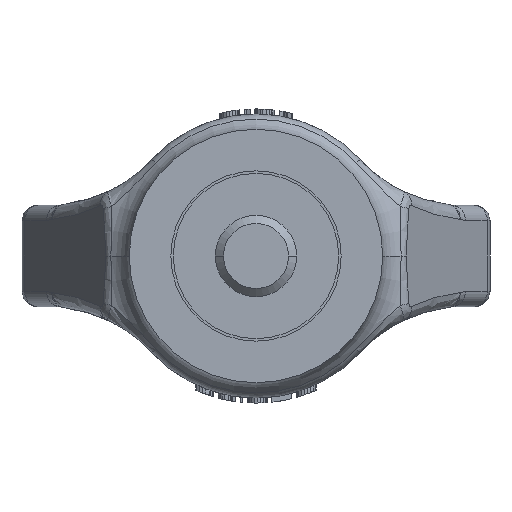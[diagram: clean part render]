
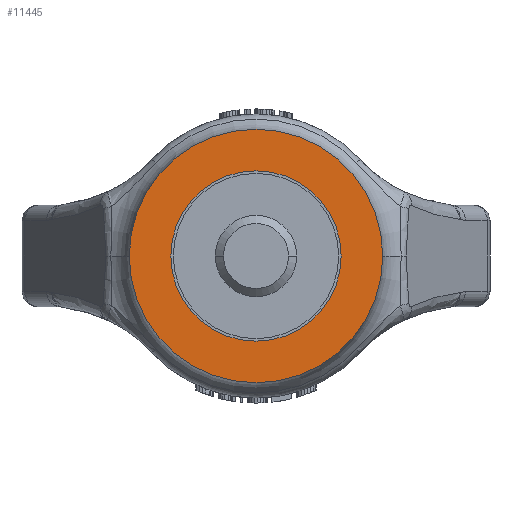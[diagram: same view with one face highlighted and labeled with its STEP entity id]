
A CAD part, front view. The second image highlights one B-rep face of the part: STEP entity #11445.
In plain terms, the highlighted planar face has unit normal (0, -1, 0).
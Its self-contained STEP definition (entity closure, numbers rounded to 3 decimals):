
#273=CARTESIAN_POINT('',(0.,-22.,0.));
#274=DIRECTION('',(0.,1.,0.));
#275=DIRECTION('',(-1.,0.,0.));
#276=AXIS2_PLACEMENT_3D('',#273,#274,#275);
#278=CARTESIAN_POINT('',(0.,-22.,0.));
#279=DIRECTION('',(0.,-1.,0.));
#280=DIRECTION('',(-1.,0.,0.));
#281=AXIS2_PLACEMENT_3D('',#278,#279,#280);
#283=CARTESIAN_POINT('',(0.,-22.,0.));
#284=DIRECTION('',(0.,-1.,0.));
#285=DIRECTION('',(-1.,0.,0.));
#286=AXIS2_PLACEMENT_3D('',#283,#284,#285);
#288=CARTESIAN_POINT('',(0.,-22.,0.));
#289=DIRECTION('',(0.,-1.,0.));
#290=DIRECTION('',(1.,0.,0.));
#291=AXIS2_PLACEMENT_3D('',#288,#289,#290);
#9130=CARTESIAN_POINT('',(-8.4,-22.,0.));
#9131=CARTESIAN_POINT('',(8.4,-22.,0.));
#9132=VERTEX_POINT('',#9130);
#9133=VERTEX_POINT('',#9131);
#10446=CARTESIAN_POINT('',(12.5,-22.,0.));
#10448=VERTEX_POINT('',#10446);
#10450=CARTESIAN_POINT('',(-12.5,-22.,0.));
#10452=VERTEX_POINT('',#10450);
#11430=CARTESIAN_POINT('',(-12.991,-22.,0.));
#11431=DIRECTION('',(0.,-1.,0.));
#11432=DIRECTION('',(1.,0.,0.));
#11433=AXIS2_PLACEMENT_3D('',#11430,#11431,#11432);
#11434=PLANE('64',#11433);
#11435=ORIENTED_EDGE('12328',*,*,#11415,.T.);
#11436=ORIENTED_EDGE('12331',*,*,#11404,.F.);
#11437=EDGE_LOOP('64',(#11435,#11436));
#11438=FACE_OUTER_BOUND('64',#11437,.F.);
#11440=ORIENTED_EDGE('2685',*,*,#11439,.T.);
#11442=ORIENTED_EDGE('2686',*,*,#11441,.T.);
#11443=EDGE_LOOP('64',(#11440,#11442));
#11444=FACE_BOUND('64',#11443,.F.);
#277=CIRCLE('12328',#276,12.5);
#282=CIRCLE('12331',#281,12.5);
#287=CIRCLE('2685',#286,8.4);
#292=CIRCLE('2686',#291,8.4);
#11404=EDGE_CURVE('12331',#10452,#10448,#282,.T.);
#11415=EDGE_CURVE('12328',#10452,#10448,#277,.T.);
#11439=EDGE_CURVE('2685',#9132,#9133,#287,.T.);
#11441=EDGE_CURVE('2686',#9133,#9132,#292,.T.);
#11445=ADVANCED_FACE('64',(#11438,#11444),#11434,.T.);
